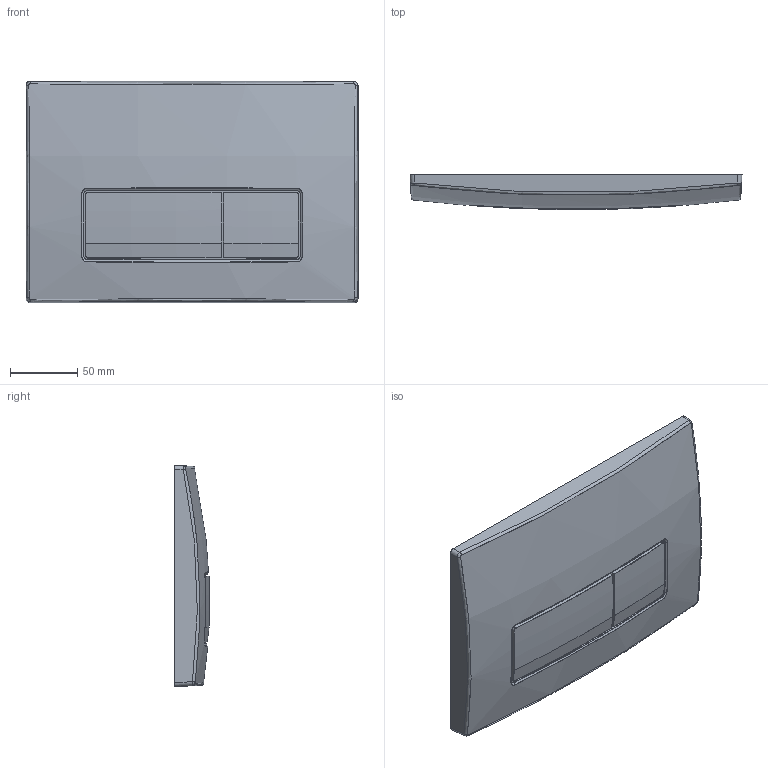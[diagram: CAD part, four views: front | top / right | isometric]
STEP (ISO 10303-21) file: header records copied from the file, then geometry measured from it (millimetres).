
FILE_DESCRIPTION(/* description */ (''),/* implementation_level */ '2;1');
FILE_NAME(/* name */ 'C:\Planerdaten\Export PLA\115.105.11.5\stp\115119.stp',/* time_stamp */ '2021-10-08T09:25:17+02:00',/* author */ ('JANAN'),/* organization */ (''),/* preprocessor_version */ 'ST-DEVELOPER v16.13',/* originating_system */ 'Autodesk Inventor 2018',/* authorisation */ '');
FILE_SCHEMA (('AUTOMOTIVE_DESIGN { 1 0 10303 214 3 1 1 }'));
Length unit declared in the file: millimetre
Products named in the file (1): tmp1D40.tmp
Bounding box: 246 x 25.89 x 164 mm (x, y, z)
Volume: 924098.3 mm3; surface area: 127937.4 mm2
Topology: 3 solids, 3 shells, 197 faces, 473 edges, 282 vertices
Faces by surface type: plane 73, cylinder 56, bspline 56, sphere 8, torus 4
Entity records: 10201 total; most frequent: CARTESIAN_POINT 5417, DIRECTION 977, ORIENTED_EDGE 940, EDGE_CURVE 470, AXIS2_PLACEMENT_3D 366, VERTEX_POINT 280, LINE 245, VECTOR 245
